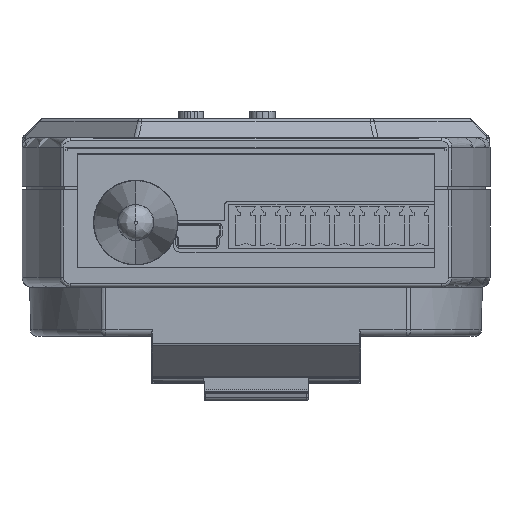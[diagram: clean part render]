
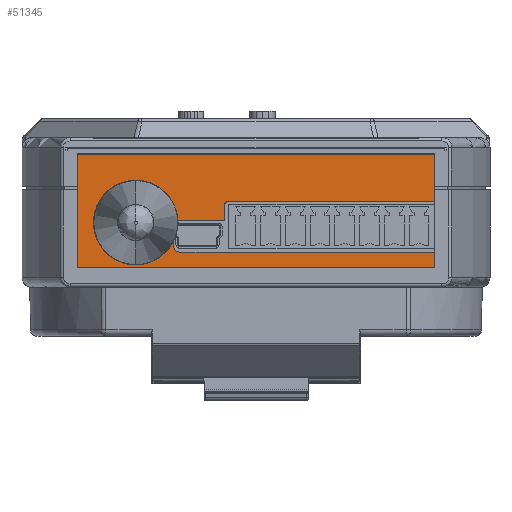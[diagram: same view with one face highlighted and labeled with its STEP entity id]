
A CAD part, front view. The second image highlights one B-rep face of the part: STEP entity #51345.
In plain terms, the highlighted planar face has unit normal (0, -1, 0).
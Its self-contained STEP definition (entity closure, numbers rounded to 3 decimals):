
#16650=DIRECTION('',(0.,0.,-1.));
#16651=VECTOR('',#16650,0.7);
#16652=CARTESIAN_POINT('',(-12.7,-51.45,7.1));
#16653=LINE('',#16652,#16651);
#16654=DIRECTION('',(-1.,0.,0.));
#16655=VECTOR('',#16654,39.2);
#16656=CARTESIAN_POINT('',(27.5,-51.45,5.4));
#16657=LINE('',#16656,#16655);
#16658=DIRECTION('',(0.,0.,-1.));
#16659=VECTOR('',#16658,2.4);
#16660=CARTESIAN_POINT('',(27.5,-51.45,5.4));
#16661=LINE('',#16660,#16659);
#16662=DIRECTION('',(-1.,0.,0.));
#16663=VECTOR('',#16662,55.);
#16664=CARTESIAN_POINT('',(27.5,-51.45,3.));
#16665=LINE('',#16664,#16663);
#16666=DIRECTION('',(0.,0.,1.));
#16667=VECTOR('',#16666,17.4);
#16668=CARTESIAN_POINT('',(-27.5,-51.45,3.));
#16669=LINE('',#16668,#16667);
#16670=DIRECTION('',(1.,0.,0.));
#16671=VECTOR('',#16670,55.);
#16672=CARTESIAN_POINT('',(-27.5,-51.45,20.4));
#16673=LINE('',#16672,#16671);
#16674=DIRECTION('',(0.,0.,-1.));
#16675=VECTOR('',#16674,7.2);
#16676=CARTESIAN_POINT('',(27.5,-51.45,20.4));
#16677=LINE('',#16676,#16675);
#16678=DIRECTION('',(-1.,0.,0.));
#16679=VECTOR('',#16678,31.8);
#16680=CARTESIAN_POINT('',(27.5,-51.45,13.2));
#16681=LINE('',#16680,#16679);
#16682=DIRECTION('',(0.,0.,-1.));
#16683=VECTOR('',#16682,2.5);
#16684=CARTESIAN_POINT('',(-4.8,-51.45,12.7));
#16685=LINE('',#16684,#16683);
#16686=DIRECTION('',(-1.,0.,0.));
#16687=VECTOR('',#16686,7.5);
#16688=CARTESIAN_POINT('',(-4.8,-51.45,10.2));
#16689=LINE('',#16688,#16687);
#16690=DIRECTION('',(0.,0.,-1.));
#16691=VECTOR('',#16690,1.2);
#16692=CARTESIAN_POINT('',(-13.3,-51.45,9.2));
#16693=LINE('',#16692,#16691);
#16694=CARTESIAN_POINT('',(-12.7,-51.45,8.));
#16695=DIRECTION('',(0.,-1.,0.));
#16696=DIRECTION('',(-1.,0.,0.));
#16697=AXIS2_PLACEMENT_3D('',#16694,#16695,#16696);
#16699=DIRECTION('',(0.739,0.,-0.673));
#16700=VECTOR('',#16699,0.458);
#16701=CARTESIAN_POINT('',(-13.104,-51.45,7.556));
#16702=LINE('',#16701,#16700);
#16703=CARTESIAN_POINT('',(-12.9,-51.45,7.1));
#16704=DIRECTION('',(0.,-1.,0.));
#16705=DIRECTION('',(1.,0.,0.));
#16706=AXIS2_PLACEMENT_3D('',#16703,#16704,#16705);
#16708=DIRECTION('',(0.,0.,1.));
#16709=VECTOR('',#16708,6.);
#16710=CARTESIAN_POINT('',(-15.,-51.45,6.94));
#16711=LINE('',#16710,#16709);
#16712=DIRECTION('',(-1.,0.,0.));
#16713=VECTOR('',#16712,6.);
#16714=CARTESIAN_POINT('',(-15.5,-51.45,13.44));
#16715=LINE('',#16714,#16713);
#16716=DIRECTION('',(0.,0.,-1.));
#16717=VECTOR('',#16716,6.);
#16718=CARTESIAN_POINT('',(-22.,-51.45,12.94));
#16719=LINE('',#16718,#16717);
#16720=DIRECTION('',(1.,0.,0.));
#16721=VECTOR('',#16720,6.);
#16722=CARTESIAN_POINT('',(-21.5,-51.45,6.44));
#16723=LINE('',#16722,#16721);
#16732=CARTESIAN_POINT('',(-11.7,-51.45,6.4));
#16733=DIRECTION('',(0.,1.,0.));
#16734=DIRECTION('',(0.,0.,-1.));
#16735=AXIS2_PLACEMENT_3D('',#16732,#16733,#16734);
#17689=CARTESIAN_POINT('',(-4.3,-51.45,12.7));
#17690=DIRECTION('',(0.,1.,0.));
#17691=DIRECTION('',(-1.,0.,0.));
#17692=AXIS2_PLACEMENT_3D('',#17689,#17690,#17691);
#17706=CARTESIAN_POINT('',(-12.3,-51.45,9.2));
#17707=DIRECTION('',(0.,1.,0.));
#17708=DIRECTION('',(-1.,0.,0.));
#17709=AXIS2_PLACEMENT_3D('',#17706,#17707,#17708);
#17739=CARTESIAN_POINT('',(-15.5,-51.45,12.94));
#17740=DIRECTION('',(0.,1.,0.));
#17741=DIRECTION('',(0.,0.,1.));
#17742=AXIS2_PLACEMENT_3D('',#17739,#17740,#17741);
#17752=CARTESIAN_POINT('',(-21.5,-51.45,12.94));
#17753=DIRECTION('',(0.,1.,0.));
#17754=DIRECTION('',(-1.,0.,0.));
#17755=AXIS2_PLACEMENT_3D('',#17752,#17753,#17754);
#17765=CARTESIAN_POINT('',(-21.5,-51.45,6.94));
#17766=DIRECTION('',(0.,1.,0.));
#17767=DIRECTION('',(0.,0.,-1.));
#17768=AXIS2_PLACEMENT_3D('',#17765,#17766,#17767);
#17778=CARTESIAN_POINT('',(-15.5,-51.45,6.94));
#17779=DIRECTION('',(0.,1.,0.));
#17780=DIRECTION('',(1.,0.,0.));
#17781=AXIS2_PLACEMENT_3D('',#17778,#17779,#17780);
#30054=CARTESIAN_POINT('',(-27.5,-51.45,20.4));
#30055=CARTESIAN_POINT('',(27.5,-51.45,20.4));
#30056=VERTEX_POINT('',#30054);
#30057=VERTEX_POINT('',#30055);
#30058=CARTESIAN_POINT('',(27.5,-51.45,3.));
#30059=CARTESIAN_POINT('',(-27.5,-51.45,3.));
#30060=VERTEX_POINT('',#30058);
#30061=VERTEX_POINT('',#30059);
#30062=CARTESIAN_POINT('',(27.5,-51.45,13.2));
#30063=VERTEX_POINT('',#30062);
#30064=CARTESIAN_POINT('',(27.5,-51.45,5.4));
#30065=VERTEX_POINT('',#30064);
#30066=CARTESIAN_POINT('',(-13.3,-51.45,8.));
#30067=CARTESIAN_POINT('',(-13.104,-51.45,7.556));
#30068=VERTEX_POINT('',#30066);
#30069=VERTEX_POINT('',#30067);
#30070=CARTESIAN_POINT('',(-12.765,-51.45,7.248));
#30071=VERTEX_POINT('',#30070);
#30072=CARTESIAN_POINT('',(-12.7,-51.45,7.1));
#30073=VERTEX_POINT('',#30072);
#30074=CARTESIAN_POINT('',(-11.7,-51.45,5.4));
#30075=VERTEX_POINT('',#30074);
#30076=CARTESIAN_POINT('',(-4.8,-51.45,10.2));
#30077=CARTESIAN_POINT('',(-12.3,-51.45,10.2));
#30078=VERTEX_POINT('',#30076);
#30079=VERTEX_POINT('',#30077);
#30080=CARTESIAN_POINT('',(-13.3,-51.45,9.2));
#30081=VERTEX_POINT('',#30080);
#30082=CARTESIAN_POINT('',(-12.7,-51.45,6.4));
#30083=VERTEX_POINT('',#30082);
#30084=CARTESIAN_POINT('',(-4.8,-51.45,12.7));
#30085=VERTEX_POINT('',#30084);
#30086=CARTESIAN_POINT('',(-4.3,-51.45,13.2));
#30087=VERTEX_POINT('',#30086);
#30088=CARTESIAN_POINT('',(-22.,-51.45,12.94));
#30089=CARTESIAN_POINT('',(-22.,-51.45,6.94));
#30090=VERTEX_POINT('',#30088);
#30091=VERTEX_POINT('',#30089);
#30092=CARTESIAN_POINT('',(-21.5,-51.45,6.44));
#30093=CARTESIAN_POINT('',(-15.5,-51.45,6.44));
#30094=VERTEX_POINT('',#30092);
#30095=VERTEX_POINT('',#30093);
#30096=CARTESIAN_POINT('',(-15.,-51.45,6.94));
#30097=CARTESIAN_POINT('',(-15.,-51.45,12.94));
#30098=VERTEX_POINT('',#30096);
#30099=VERTEX_POINT('',#30097);
#30100=CARTESIAN_POINT('',(-15.5,-51.45,13.44));
#30101=CARTESIAN_POINT('',(-21.5,-51.45,13.44));
#30102=VERTEX_POINT('',#30100);
#30103=VERTEX_POINT('',#30101);
#51290=CARTESIAN_POINT('',(0.,-51.45,21.46));
#51291=DIRECTION('',(0.,1.,0.));
#51292=DIRECTION('',(1.,0.,0.));
#51293=AXIS2_PLACEMENT_3D('',#51290,#51291,#51292);
#51294=PLANE('',#51293);
#51296=ORIENTED_EDGE('',*,*,#51295,.T.);
#51298=ORIENTED_EDGE('',*,*,#51297,.F.);
#51300=ORIENTED_EDGE('',*,*,#51299,.F.);
#51301=ORIENTED_EDGE('',*,*,#33994,.T.);
#51303=ORIENTED_EDGE('',*,*,#51302,.T.);
#51304=ORIENTED_EDGE('',*,*,#51283,.T.);
#51305=ORIENTED_EDGE('',*,*,#35845,.T.);
#51306=ORIENTED_EDGE('',*,*,#33971,.T.);
#51308=ORIENTED_EDGE('',*,*,#51307,.T.);
#51310=ORIENTED_EDGE('',*,*,#51309,.F.);
#51312=ORIENTED_EDGE('',*,*,#51311,.T.);
#51314=ORIENTED_EDGE('',*,*,#51313,.T.);
#51316=ORIENTED_EDGE('',*,*,#51315,.F.);
#51318=ORIENTED_EDGE('',*,*,#51317,.T.);
#51320=ORIENTED_EDGE('',*,*,#51319,.T.);
#51322=ORIENTED_EDGE('',*,*,#51321,.T.);
#51324=ORIENTED_EDGE('',*,*,#51323,.F.);
#51325=EDGE_LOOP('',(#51296,#51298,#51300,#51301,#51303,#51304,#51305,#51306,
#51308,#51310,#51312,#51314,#51316,#51318,#51320,#51322,#51324));
#51326=FACE_OUTER_BOUND('',#51325,.F.);
#51328=ORIENTED_EDGE('',*,*,#51327,.T.);
#51330=ORIENTED_EDGE('',*,*,#51329,.F.);
#51332=ORIENTED_EDGE('',*,*,#51331,.T.);
#51334=ORIENTED_EDGE('',*,*,#51333,.F.);
#51336=ORIENTED_EDGE('',*,*,#51335,.T.);
#51338=ORIENTED_EDGE('',*,*,#51337,.F.);
#51340=ORIENTED_EDGE('',*,*,#51339,.T.);
#51342=ORIENTED_EDGE('',*,*,#51341,.F.);
#51343=EDGE_LOOP('',(#51328,#51330,#51332,#51334,#51336,#51338,#51340,#51342));
#51344=FACE_BOUND('',#51343,.F.);
#51345=ADVANCED_FACE('',(#51326,#51344),#51294,.F.);
#16698=CIRCLE('',#16697,0.6);
#16707=CIRCLE('',#16706,0.2);
#16736=CIRCLE('',#16735,1.);
#17693=CIRCLE('',#17692,0.5);
#17710=CIRCLE('',#17709,1.);
#17743=CIRCLE('',#17742,0.5);
#17756=CIRCLE('',#17755,0.5);
#17769=CIRCLE('',#17768,0.5);
#17782=CIRCLE('',#17781,0.5);
#33971=EDGE_CURVE('',#30057,#30063,#16677,.T.);
#33994=EDGE_CURVE('',#30065,#30060,#16661,.T.);
#35845=EDGE_CURVE('',#30056,#30057,#16673,.T.);
#51283=EDGE_CURVE('',#30061,#30056,#16669,.T.);
#51295=EDGE_CURVE('',#30073,#30083,#16653,.T.);
#51297=EDGE_CURVE('',#30075,#30083,#16736,.T.);
#51299=EDGE_CURVE('',#30065,#30075,#16657,.T.);
#51302=EDGE_CURVE('',#30060,#30061,#16665,.T.);
#51307=EDGE_CURVE('',#30063,#30087,#16681,.T.);
#51309=EDGE_CURVE('',#30085,#30087,#17693,.T.);
#51311=EDGE_CURVE('',#30085,#30078,#16685,.T.);
#51313=EDGE_CURVE('',#30078,#30079,#16689,.T.);
#51315=EDGE_CURVE('',#30081,#30079,#17710,.T.);
#51317=EDGE_CURVE('',#30081,#30068,#16693,.T.);
#51319=EDGE_CURVE('',#30068,#30069,#16698,.T.);
#51321=EDGE_CURVE('',#30069,#30071,#16702,.T.);
#51323=EDGE_CURVE('',#30073,#30071,#16707,.T.);
#51327=EDGE_CURVE('',#30098,#30099,#16711,.T.);
#51329=EDGE_CURVE('',#30102,#30099,#17743,.T.);
#51331=EDGE_CURVE('',#30102,#30103,#16715,.T.);
#51333=EDGE_CURVE('',#30090,#30103,#17756,.T.);
#51335=EDGE_CURVE('',#30090,#30091,#16719,.T.);
#51337=EDGE_CURVE('',#30094,#30091,#17769,.T.);
#51339=EDGE_CURVE('',#30094,#30095,#16723,.T.);
#51341=EDGE_CURVE('',#30098,#30095,#17782,.T.);
